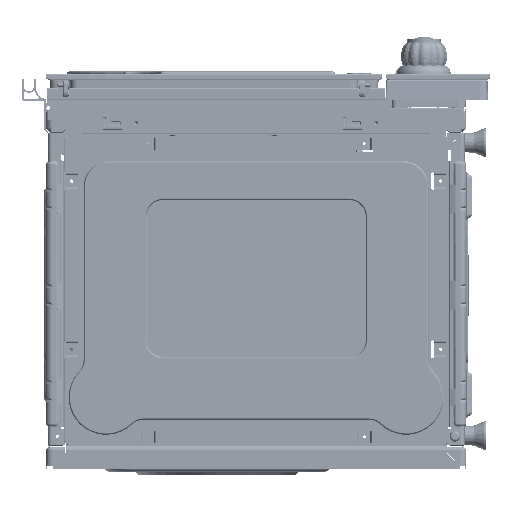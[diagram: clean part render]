
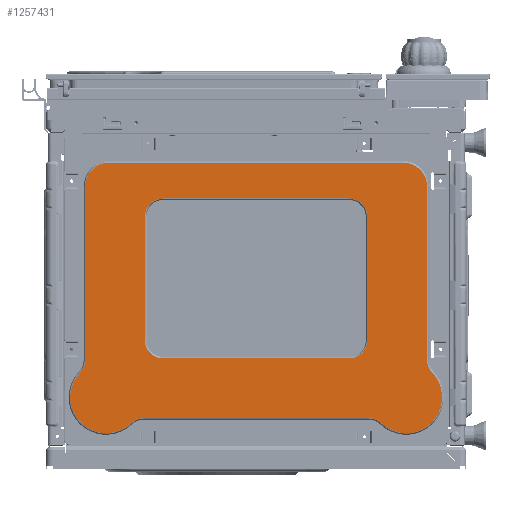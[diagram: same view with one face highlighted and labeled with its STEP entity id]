
A CAD part, left-side view. The second image highlights one B-rep face of the part: STEP entity #1257431.
In plain terms, the highlighted planar face has unit normal (-1, 0, 0) as drawn and (0, 1, 0) by its records, which use the part's own axes.
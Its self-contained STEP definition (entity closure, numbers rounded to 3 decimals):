
#1247270=DIRECTION('',(-1.,0.,0.));
#1247271=VECTOR('',#1247270,187.751);
#1247272=CARTESIAN_POINT('',(93.875,1.5,-107.385));
#1247273=LINE('',#1247272,#1247271);
#1247277=CARTESIAN_POINT('',(93.875,1.5,-122.5));
#1247278=DIRECTION('',(0.,-1.,0.));
#1247279=DIRECTION('',(0.692,0.,0.722));
#1247280=AXIS2_PLACEMENT_3D('',#1247277,#1247278,#1247279);
#1247285=CARTESIAN_POINT('',(125.,1.5,-90.));
#1247286=DIRECTION('',(0.,-1.,0.));
#1247287=DIRECTION('',(-0.692,0.,-0.722));
#1247288=AXIS2_PLACEMENT_3D('',#1247285,#1247286,#1247287);
#1247293=CARTESIAN_POINT('',(157.5,1.5,-58.875));
#1247294=DIRECTION('',(0.,-1.,0.));
#1247295=DIRECTION('',(-1.,0.,0.));
#1247296=AXIS2_PLACEMENT_3D('',#1247293,#1247294,#1247295);
#1247301=DIRECTION('',(0.,0.,-1.));
#1247302=VECTOR('',#1247301,144.375);
#1247303=CARTESIAN_POINT('',(142.385,1.5,85.5));
#1247304=LINE('',#1247303,#1247302);
#1247308=CARTESIAN_POINT('',(122.5,1.5,85.5));
#1247309=DIRECTION('',(0.,1.,0.));
#1247310=DIRECTION('',(0.,0.,1.));
#1247311=AXIS2_PLACEMENT_3D('',#1247308,#1247309,#1247310);
#1247316=DIRECTION('',(1.,0.,0.));
#1247317=VECTOR('',#1247316,245.);
#1247318=CARTESIAN_POINT('',(-122.5,1.5,105.385));
#1247319=LINE('',#1247318,#1247317);
#1247323=CARTESIAN_POINT('',(-122.5,1.5,85.5));
#1247324=DIRECTION('',(0.,1.,0.));
#1247325=DIRECTION('',(-1.,0.,0.));
#1247326=AXIS2_PLACEMENT_3D('',#1247323,#1247324,#1247325);
#1247331=DIRECTION('',(0.,0.,1.));
#1247332=VECTOR('',#1247331,144.375);
#1247333=CARTESIAN_POINT('',(-142.385,1.5,-58.875));
#1247334=LINE('',#1247333,#1247332);
#1247338=CARTESIAN_POINT('',(-157.5,1.5,-58.875));
#1247339=DIRECTION('',(0.,-1.,0.));
#1247340=DIRECTION('',(0.722,0.,-0.692));
#1247341=AXIS2_PLACEMENT_3D('',#1247338,#1247339,#1247340);
#1247346=CARTESIAN_POINT('',(-125.,1.5,-90.));
#1247347=DIRECTION('',(0.,1.,0.));
#1247348=DIRECTION('',(0.692,0.,-0.722));
#1247349=AXIS2_PLACEMENT_3D('',#1247346,#1247347,#1247348);
#1247354=CARTESIAN_POINT('',(-93.875,1.5,-122.5));
#1247355=DIRECTION('',(0.,-1.,0.));
#1247356=DIRECTION('',(0.,0.,1.));
#1247357=AXIS2_PLACEMENT_3D('',#1247354,#1247355,#1247356);
#1247362=CARTESIAN_POINT('',(-77.5,1.5,-42.5));
#1247363=DIRECTION('',(0.,-1.,0.));
#1247364=DIRECTION('',(-1.,0.,0.));
#1247365=AXIS2_PLACEMENT_3D('',#1247362,#1247363,#1247364);
#1247370=DIRECTION('',(0.,0.,-1.));
#1247371=VECTOR('',#1247370,103.);
#1247372=CARTESIAN_POINT('',(-92.615,1.5,60.5));
#1247373=LINE('',#1247372,#1247371);
#1247377=CARTESIAN_POINT('',(-77.5,1.5,60.5));
#1247378=DIRECTION('',(0.,-1.,0.));
#1247379=DIRECTION('',(0.,0.,1.));
#1247380=AXIS2_PLACEMENT_3D('',#1247377,#1247378,#1247379);
#1247385=DIRECTION('',(-1.,0.,0.));
#1247386=VECTOR('',#1247385,155.);
#1247387=CARTESIAN_POINT('',(77.5,1.5,75.615));
#1247388=LINE('',#1247387,#1247386);
#1247392=CARTESIAN_POINT('',(77.5,1.5,60.5));
#1247393=DIRECTION('',(0.,-1.,0.));
#1247394=DIRECTION('',(1.,0.,0.));
#1247395=AXIS2_PLACEMENT_3D('',#1247392,#1247393,#1247394);
#1247400=DIRECTION('',(0.,0.,1.));
#1247401=VECTOR('',#1247400,103.);
#1247402=CARTESIAN_POINT('',(92.615,1.5,-42.5));
#1247403=LINE('',#1247402,#1247401);
#1247407=CARTESIAN_POINT('',(77.5,1.5,-42.5));
#1247408=DIRECTION('',(0.,-1.,0.));
#1247409=DIRECTION('',(0.,0.,-1.));
#1247410=AXIS2_PLACEMENT_3D('',#1247407,#1247408,#1247409);
#1247415=DIRECTION('',(1.,0.,0.));
#1247416=VECTOR('',#1247415,155.);
#1247417=CARTESIAN_POINT('',(-77.5,1.5,-57.615));
#1247418=LINE('',#1247417,#1247416);
#1256863=CARTESIAN_POINT('',(-142.385,1.5,-58.875));
#1256864=CARTESIAN_POINT('',(-142.385,1.5,85.5));
#1256865=VERTEX_POINT('',#1256863);
#1256866=VERTEX_POINT('',#1256864);
#1256867=CARTESIAN_POINT('',(-146.583,1.5,-69.33));
#1256868=VERTEX_POINT('',#1256867);
#1256869=CARTESIAN_POINT('',(142.385,1.5,85.5));
#1256870=CARTESIAN_POINT('',(142.385,1.5,-58.875));
#1256871=VERTEX_POINT('',#1256869);
#1256872=VERTEX_POINT('',#1256870);
#1256873=CARTESIAN_POINT('',(122.5,1.5,105.385));
#1256874=VERTEX_POINT('',#1256873);
#1256875=CARTESIAN_POINT('',(-122.5,1.5,105.385));
#1256876=VERTEX_POINT('',#1256875);
#1256877=CARTESIAN_POINT('',(-92.615,1.5,-42.5));
#1256878=CARTESIAN_POINT('',(-77.5,1.5,-57.615));
#1256879=VERTEX_POINT('',#1256877);
#1256880=VERTEX_POINT('',#1256878);
#1256881=CARTESIAN_POINT('',(-92.615,1.5,60.5));
#1256882=VERTEX_POINT('',#1256881);
#1256883=CARTESIAN_POINT('',(-77.5,1.5,75.615));
#1256884=VERTEX_POINT('',#1256883);
#1256885=CARTESIAN_POINT('',(77.5,1.5,75.615));
#1256886=VERTEX_POINT('',#1256885);
#1256887=CARTESIAN_POINT('',(92.615,1.5,60.5));
#1256888=VERTEX_POINT('',#1256887);
#1256889=CARTESIAN_POINT('',(92.615,1.5,-42.5));
#1256890=VERTEX_POINT('',#1256889);
#1256891=CARTESIAN_POINT('',(77.5,1.5,-57.615));
#1256892=VERTEX_POINT('',#1256891);
#1257023=CARTESIAN_POINT('',(93.875,1.5,-107.385));
#1257024=CARTESIAN_POINT('',(-93.875,1.5,-107.385));
#1257025=VERTEX_POINT('',#1257023);
#1257026=VERTEX_POINT('',#1257024);
#1257027=CARTESIAN_POINT('',(104.33,1.5,-111.583));
#1257028=VERTEX_POINT('',#1257027);
#1257029=CARTESIAN_POINT('',(146.583,1.5,-69.33));
#1257030=VERTEX_POINT('',#1257029);
#1257031=CARTESIAN_POINT('',(-104.33,1.5,-111.583));
#1257032=VERTEX_POINT('',#1257031);
#1257383=CARTESIAN_POINT('',(0.,1.5,0.));
#1257384=DIRECTION('',(0.,1.,0.));
#1257385=DIRECTION('',(0.,0.,-1.));
#1257386=AXIS2_PLACEMENT_3D('',#1257383,#1257384,#1257385);
#1257387=PLANE('',#1257386);
#1257389=ORIENTED_EDGE('',*,*,#1257388,.F.);
#1257391=ORIENTED_EDGE('',*,*,#1257390,.F.);
#1257393=ORIENTED_EDGE('',*,*,#1257392,.T.);
#1257395=ORIENTED_EDGE('',*,*,#1257394,.F.);
#1257397=ORIENTED_EDGE('',*,*,#1257396,.F.);
#1257399=ORIENTED_EDGE('',*,*,#1257398,.F.);
#1257401=ORIENTED_EDGE('',*,*,#1257400,.F.);
#1257403=ORIENTED_EDGE('',*,*,#1257402,.F.);
#1257405=ORIENTED_EDGE('',*,*,#1257404,.F.);
#1257407=ORIENTED_EDGE('',*,*,#1257406,.F.);
#1257409=ORIENTED_EDGE('',*,*,#1257408,.F.);
#1257411=ORIENTED_EDGE('',*,*,#1257410,.F.);
#1257412=EDGE_LOOP('',(#1257389,#1257391,#1257393,#1257395,#1257397,#1257399,
#1257401,#1257403,#1257405,#1257407,#1257409,#1257411));
#1257413=FACE_OUTER_BOUND('',#1257412,.F.);
#1257415=ORIENTED_EDGE('',*,*,#1257414,.F.);
#1257417=ORIENTED_EDGE('',*,*,#1257416,.F.);
#1257419=ORIENTED_EDGE('',*,*,#1257418,.F.);
#1257421=ORIENTED_EDGE('',*,*,#1257420,.F.);
#1257423=ORIENTED_EDGE('',*,*,#1257422,.F.);
#1257425=ORIENTED_EDGE('',*,*,#1257424,.F.);
#1257427=ORIENTED_EDGE('',*,*,#1257426,.F.);
#1257428=ORIENTED_EDGE('',*,*,#1257373,.F.);
#1257429=EDGE_LOOP('',(#1257415,#1257417,#1257419,#1257421,#1257423,#1257425,
#1257427,#1257428));
#1257430=FACE_BOUND('',#1257429,.F.);
#1247281=CIRCLE('',#1247280,15.115);
#1247289=CIRCLE('',#1247288,29.885);
#1247297=CIRCLE('',#1247296,15.115);
#1247312=CIRCLE('',#1247311,19.885);
#1247327=CIRCLE('',#1247326,19.885);
#1247342=CIRCLE('',#1247341,15.115);
#1247350=CIRCLE('',#1247349,29.885);
#1247358=CIRCLE('',#1247357,15.115);
#1247366=CIRCLE('',#1247365,15.115);
#1247381=CIRCLE('',#1247380,15.115);
#1247396=CIRCLE('',#1247395,15.115);
#1247411=CIRCLE('',#1247410,15.115);
#1257373=EDGE_CURVE('',#1256880,#1256892,#1247418,.T.);
#1257388=EDGE_CURVE('',#1257025,#1257026,#1247273,.T.);
#1257390=EDGE_CURVE('',#1257028,#1257025,#1247281,.T.);
#1257392=EDGE_CURVE('',#1257028,#1257030,#1247289,.T.);
#1257394=EDGE_CURVE('',#1256872,#1257030,#1247297,.T.);
#1257396=EDGE_CURVE('',#1256871,#1256872,#1247304,.T.);
#1257398=EDGE_CURVE('',#1256874,#1256871,#1247312,.T.);
#1257400=EDGE_CURVE('',#1256876,#1256874,#1247319,.T.);
#1257402=EDGE_CURVE('',#1256866,#1256876,#1247327,.T.);
#1257404=EDGE_CURVE('',#1256865,#1256866,#1247334,.T.);
#1257406=EDGE_CURVE('',#1256868,#1256865,#1247342,.T.);
#1257408=EDGE_CURVE('',#1257032,#1256868,#1247350,.T.);
#1257410=EDGE_CURVE('',#1257026,#1257032,#1247358,.T.);
#1257414=EDGE_CURVE('',#1256879,#1256880,#1247366,.T.);
#1257416=EDGE_CURVE('',#1256882,#1256879,#1247373,.T.);
#1257418=EDGE_CURVE('',#1256884,#1256882,#1247381,.T.);
#1257420=EDGE_CURVE('',#1256886,#1256884,#1247388,.T.);
#1257422=EDGE_CURVE('',#1256888,#1256886,#1247396,.T.);
#1257424=EDGE_CURVE('',#1256890,#1256888,#1247403,.T.);
#1257426=EDGE_CURVE('',#1256892,#1256890,#1247411,.T.);
#1257431=ADVANCED_FACE('',(#1257413,#1257430),#1257387,.T.);
